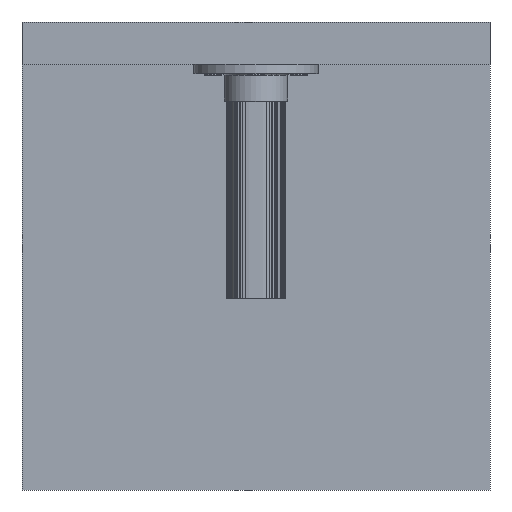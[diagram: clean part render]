
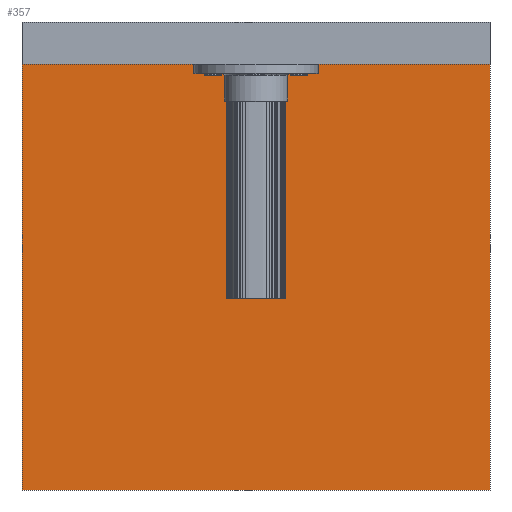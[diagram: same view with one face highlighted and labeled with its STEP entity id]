
A CAD part, front view. The second image highlights one B-rep face of the part: STEP entity #357.
In plain terms, the highlighted planar face has unit normal (0, -1, 0).
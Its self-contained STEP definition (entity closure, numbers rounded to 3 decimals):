
#357=ADVANCED_FACE('',(#955),#956,.T.);
#955=FACE_OUTER_BOUND('',#2112,.T.);
#956=PLANE('',#2113);
#2112=EDGE_LOOP('',(#4180,#4181,#4182,#4183));
#2113=AXIS2_PLACEMENT_3D('',#4184,#4185,#4186);
#4180=ORIENTED_EDGE('',*,*,#5703,.F.);
#4181=ORIENTED_EDGE('',*,*,#5695,.F.);
#4182=ORIENTED_EDGE('',*,*,#5704,.T.);
#4183=ORIENTED_EDGE('',*,*,#5701,.F.);
#4184=CARTESIAN_POINT('',(-40.0,101.67,-262.0));
#4185=DIRECTION('',(0.0,-1.0,0.0));
#4186=DIRECTION('',(0.0,0.0,-1.0));
#5695=EDGE_CURVE('',#6973,#6975,#6976,.T.);
#5701=EDGE_CURVE('',#6983,#6985,#6986,.T.);
#5703=EDGE_CURVE('',#6975,#6983,#6988,.T.);
#5704=EDGE_CURVE('',#6973,#6985,#6989,.T.);
#6973=VERTEX_POINT('',#9027);
#6975=VERTEX_POINT('',#9030);
#6976=LINE('',#9031,#9032);
#6983=VERTEX_POINT('',#9043);
#6985=VERTEX_POINT('',#9046);
#6986=LINE('',#9047,#9048);
#6988=LINE('',#9051,#9052);
#6989=LINE('',#9053,#9054);
#9027=CARTESIAN_POINT('',(110.0,101.67,-262.0));
#9030=CARTESIAN_POINT('',(110.0,101.67,-462.0));
#9031=CARTESIAN_POINT('',(110.0,101.67,-462.0));
#9032=VECTOR('',#11634,1.0);
#9043=CARTESIAN_POINT('',(-90.0,101.67,-462.0));
#9046=CARTESIAN_POINT('',(-90.0,101.67,-262.0));
#9047=CARTESIAN_POINT('',(-90.0,101.67,-462.0));
#9048=VECTOR('',#11640,1.0);
#9051=CARTESIAN_POINT('',(-40.0,101.67,-462.0));
#9052=VECTOR('',#11642,1.0);
#9053=CARTESIAN_POINT('',(-40.0,101.67,-262.0));
#9054=VECTOR('',#11643,1.0);
#11634=DIRECTION('',(0.0,0.0,-1.0));
#11640=DIRECTION('',(0.0,0.0,1.0));
#11642=DIRECTION('',(-1.0,0.0,0.0));
#11643=DIRECTION('',(-1.0,0.0,0.0));
